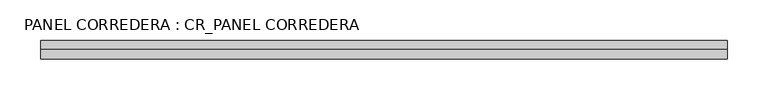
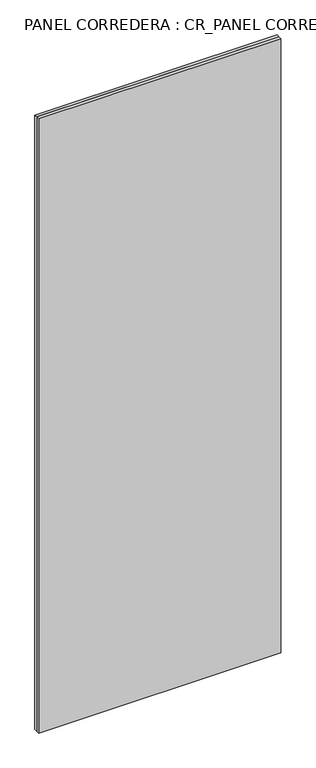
"""IFC4 building model written with IfcOpenShell, lengths in millimetres: plate geometry, PANEL CORREDERA : CR_PANEL CORREDERA."""

from ifc_helpers import new_model, si_unit, frame, origin, origin_with_axes, place, context, project, spatial, polyline, outline, extrude, source, transform, mapped, element, save


def panel_corredera_cr_panel_corredera_e449a94a(model_context):
    return source(origin(), model_context, "Body", "SweptSolid", [
        extrude(outline(polyline([(2250.0, -344.7398935), (0.0, -344.7398935), (0.0, 494.7398935), (2250.0, 494.7398935), (2250.0, -344.7398935)]), holes=[polyline([(2230.0, -324.7398935), (2230.0, 474.7398935), (20.0, 474.7398935), (20.0, -324.7398935), (2230.0, -324.7398935)])]), frame((0.0, -30.0, 0.0), z_axis=(0.0, 1.0, 0.0), x_axis=(0.0, 0.0, 1.0)), (0.0, 0.0, 1.0), 10.0),
        extrude(outline(polyline([(494.7398935, -30.0), (494.7398935, -42.5), (-344.7398935, -42.5), (-344.7398935, -30.0), (494.7398935, -30.0)])), origin_with_axes(), (0.0, 0.0, 1.0), 2250.0),
    ])


if __name__ == "__main__":
    model = new_model("IFC4")
    model_context = context("Model", 3, world=origin())
    ifc_project = project(units=[si_unit("LENGTHUNIT", "METRE", prefix="MILLI")], contexts=[model_context])
    site = spatial("IfcSite", under=ifc_project)
    building = spatial("IfcBuilding", under=site)
    placement = place(None, origin())
    panel_corredera_cr_panel_corredera_shape = panel_corredera_cr_panel_corredera_e449a94a(model_context)
    element("IfcPlate", 1, ObjectType="PANEL CORREDERA : CR_PANEL CORREDERA", at=placement, inside=building, context=model_context, shape_type="MappedRepresentation", body=[
        mapped(panel_corredera_cr_panel_corredera_shape, transform((0.0, 0.0, 0.0), x_axis=(1.0, 0.0, 0.0), y_axis=(0.0, 1.0, 0.0), z_axis=(0.0, 0.0, 1.0))),
    ])
    save(model, "model.ifc")
